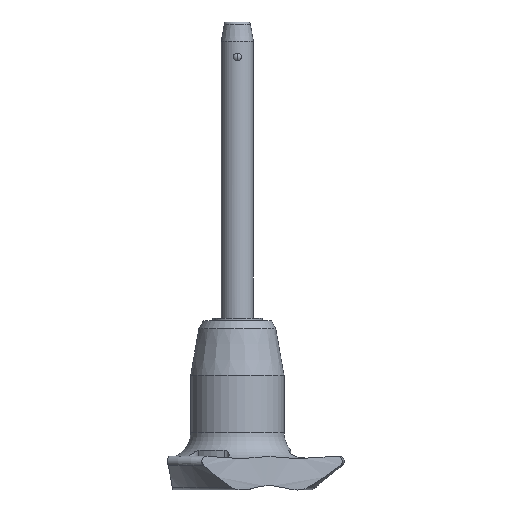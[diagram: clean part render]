
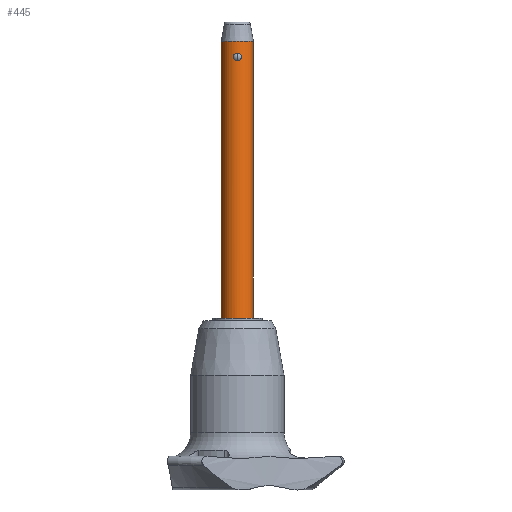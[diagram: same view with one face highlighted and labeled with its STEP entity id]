
A CAD part, front view. The second image highlights one B-rep face of the part: STEP entity #445.
In plain terms, the highlighted cylindrical face has radius 2.5 mm (diameter 5 mm), a partial arc.
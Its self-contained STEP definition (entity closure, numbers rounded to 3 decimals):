
#20 = CARTESIAN_POINT ( 'NONE',  ( 0., -2.5, 1.162 ) ) ;
#35 = CIRCLE ( 'NONE', #2291, 2.5 ) ;
#43 = CARTESIAN_POINT ( 'NONE',  ( -0.633, -2.419, 0.42 ) ) ;
#129 = CARTESIAN_POINT ( 'NONE',  ( 2.5, 0., -40. ) ) ;
#147 = EDGE_CURVE ( 'NONE', #745, #288, #1995, .T. ) ;
#166 = DIRECTION ( 'NONE',  ( 0., 0., -1. ) ) ;
#200 = CARTESIAN_POINT ( 'NONE',  ( 0.632, -2.419, 0.416 ) ) ;
#257 = CARTESIAN_POINT ( 'NONE',  ( -2.5, 0., -40. ) ) ;
#286 = EDGE_LOOP ( 'NONE', ( #2298, #934, #2317, #2234 ) ) ;
#288 = VERTEX_POINT ( 'NONE', #1309 ) ;
#424 = CARTESIAN_POINT ( 'NONE',  ( 0.511, -2.448, 0.952 ) ) ;
#439 = CARTESIAN_POINT ( 'NONE',  ( 0.326, -2.482, 0.055 ) ) ;
#445 = ADVANCED_FACE ( 'NONE', ( #733, #1974 ), #1564, .T. ) ;
#599 = B_SPLINE_CURVE_WITH_KNOTS ( 'NONE', 3,
 ( #2586, #1548, #1449, #1467, #2696, #622, #2295, #2337, #43, #2541, #2309, #1074, #1695, #673 ),
 .UNSPECIFIED., .F., .F.,
 ( 4, 2, 2, 2, 2, 2, 4 ),
 ( 0., 0., 0.001, 0.001, 0.001, 0.001, 0.002 ),
 .UNSPECIFIED. ) ;
#614 = EDGE_CURVE ( 'NONE', #288, #1967, #35, .T. ) ;
#618 = CARTESIAN_POINT ( 'NONE',  ( 0.652, -2.414, 0.497 ) ) ;
#622 = CARTESIAN_POINT ( 'NONE',  ( -0.632, -2.419, 0.744 ) ) ;
#673 = CARTESIAN_POINT ( 'NONE',  ( 0., -2.5, 0. ) ) ;
#733 = FACE_OUTER_BOUND ( 'NONE', #286, .T. ) ;
#745 = VERTEX_POINT ( 'NONE', #2268 ) ;
#781 = EDGE_CURVE ( 'NONE', #1643, #1147, #1644, .T. ) ;
#839 = DIRECTION ( 'NONE',  ( 0., 0., 1. ) ) ;
#892 = EDGE_CURVE ( 'NONE', #2150, #1967, #1283, .T. ) ;
#934 = ORIENTED_EDGE ( 'NONE', *, *, #1693, .F. ) ;
#1052 = CARTESIAN_POINT ( 'NONE',  ( 0.327, -2.482, 1.107 ) ) ;
#1065 = CIRCLE ( 'NONE', #1204, 2.5 ) ;
#1074 = CARTESIAN_POINT ( 'NONE',  ( -0.326, -2.482, 0.054 ) ) ;
#1147 = VERTEX_POINT ( 'NONE', #1687 ) ;
#1180 = DIRECTION ( 'NONE',  ( 0., 0., 1. ) ) ;
#1204 = AXIS2_PLACEMENT_3D ( 'NONE', #1799, #2233, #1786 ) ;
#1273 = CARTESIAN_POINT ( 'NONE',  ( 0., 0., 3. ) ) ;
#1283 = LINE ( 'NONE', #257, #1990 ) ;
#1309 = CARTESIAN_POINT ( 'NONE',  ( 2.5, 0., 3. ) ) ;
#1343 = CARTESIAN_POINT ( 'NONE',  ( 0., -2.5, 0. ) ) ;
#1399 = ORIENTED_EDGE ( 'NONE', *, *, #781, .F. ) ;
#1445 = CARTESIAN_POINT ( 'NONE',  ( 0.633, -2.419, 0.742 ) ) ;
#1449 = CARTESIAN_POINT ( 'NONE',  ( -0.324, -2.482, 1.108 ) ) ;
#1467 = CARTESIAN_POINT ( 'NONE',  ( -0.51, -2.448, 0.953 ) ) ;
#1548 = CARTESIAN_POINT ( 'NONE',  ( -0.164, -2.5, 1.162 ) ) ;
#1564 = CYLINDRICAL_SURFACE ( 'NONE', #2688, 2.5 ) ;
#1601 = ORIENTED_EDGE ( 'NONE', *, *, #2426, .F. ) ;
#1637 = CARTESIAN_POINT ( 'NONE',  ( 0., -2.5, 0. ) ) ;
#1643 = VERTEX_POINT ( 'NONE', #1343 ) ;
#1644 = B_SPLINE_CURVE_WITH_KNOTS ( 'NONE', 3,
 ( #1637, #2493, #439, #2468, #2090, #200, #618, #2079, #1445, #2278, #424, #1052, #1881, #20 ),
 .UNSPECIFIED., .F., .F.,
 ( 4, 2, 2, 2, 2, 2, 4 ),
 ( 0.002, 0.002, 0.003, 0.003, 0.003, 0.003, 0.004 ),
 .UNSPECIFIED. ) ;
#1687 = CARTESIAN_POINT ( 'NONE',  ( 0., -2.5, 1.162 ) ) ;
#1693 = EDGE_CURVE ( 'NONE', #745, #2150, #1065, .T. ) ;
#1695 = CARTESIAN_POINT ( 'NONE',  ( -0.162, -2.5, 0. ) ) ;
#1768 = CARTESIAN_POINT ( 'NONE',  ( -2.5, 0., 3. ) ) ;
#1786 = DIRECTION ( 'NONE',  ( 1., 0., 0. ) ) ;
#1799 = CARTESIAN_POINT ( 'NONE',  ( 0., 0., -40. ) ) ;
#1881 = CARTESIAN_POINT ( 'NONE',  ( 0.164, -2.5, 1.162 ) ) ;
#1967 = VERTEX_POINT ( 'NONE', #1768 ) ;
#1974 = FACE_BOUND ( 'NONE', #2312, .T. ) ;
#1990 = VECTOR ( 'NONE', #2142, 1000. ) ;
#1995 = LINE ( 'NONE', #129, #2211 ) ;
#2079 = CARTESIAN_POINT ( 'NONE',  ( 0.652, -2.413, 0.66 ) ) ;
#2090 = CARTESIAN_POINT ( 'NONE',  ( 0.561, -2.437, 0.273 ) ) ;
#2093 = DIRECTION ( 'NONE',  ( 1., 0., 0. ) ) ;
#2142 = DIRECTION ( 'NONE',  ( 0., 0., 1. ) ) ;
#2150 = VERTEX_POINT ( 'NONE', #2284 ) ;
#2211 = VECTOR ( 'NONE', #839, 1000. ) ;
#2233 = DIRECTION ( 'NONE',  ( 0., 0., -1. ) ) ;
#2234 = ORIENTED_EDGE ( 'NONE', *, *, #614, .T. ) ;
#2268 = CARTESIAN_POINT ( 'NONE',  ( 2.5, 0., -40. ) ) ;
#2278 = CARTESIAN_POINT ( 'NONE',  ( 0.562, -2.436, 0.887 ) ) ;
#2284 = CARTESIAN_POINT ( 'NONE',  ( -2.5, 0., -40. ) ) ;
#2291 = AXIS2_PLACEMENT_3D ( 'NONE', #1273, #166, #2093 ) ;
#2295 = CARTESIAN_POINT ( 'NONE',  ( -0.652, -2.414, 0.663 ) ) ;
#2298 = ORIENTED_EDGE ( 'NONE', *, *, #892, .F. ) ;
#2309 = CARTESIAN_POINT ( 'NONE',  ( -0.511, -2.448, 0.21 ) ) ;
#2312 = EDGE_LOOP ( 'NONE', ( #1601, #1399 ) ) ;
#2317 = ORIENTED_EDGE ( 'NONE', *, *, #147, .T. ) ;
#2337 = CARTESIAN_POINT ( 'NONE',  ( -0.652, -2.413, 0.501 ) ) ;
#2426 = EDGE_CURVE ( 'NONE', #1147, #1643, #599, .T. ) ;
#2468 = CARTESIAN_POINT ( 'NONE',  ( 0.509, -2.448, 0.208 ) ) ;
#2493 = CARTESIAN_POINT ( 'NONE',  ( 0.162, -2.5, 0. ) ) ;
#2541 = CARTESIAN_POINT ( 'NONE',  ( -0.562, -2.436, 0.274 ) ) ;
#2586 = CARTESIAN_POINT ( 'NONE',  ( 0., -2.5, 1.162 ) ) ;
#2604 = CARTESIAN_POINT ( 'NONE',  ( 0., 0., -40. ) ) ;
#2619 = DIRECTION ( 'NONE',  ( 1., 0., 0. ) ) ;
#2688 = AXIS2_PLACEMENT_3D ( 'NONE', #2604, #1180, #2619 ) ;
#2696 = CARTESIAN_POINT ( 'NONE',  ( -0.561, -2.436, 0.889 ) ) ;
